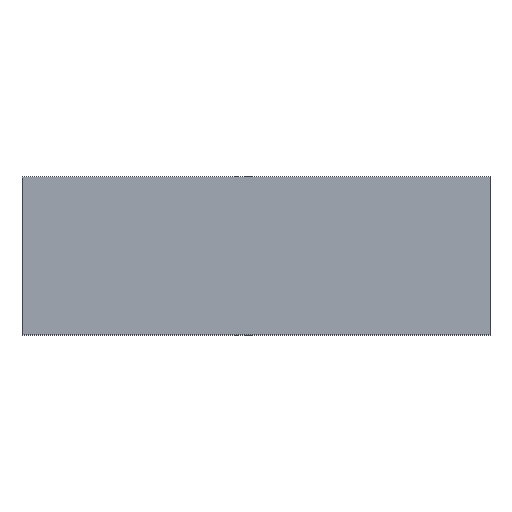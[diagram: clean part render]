
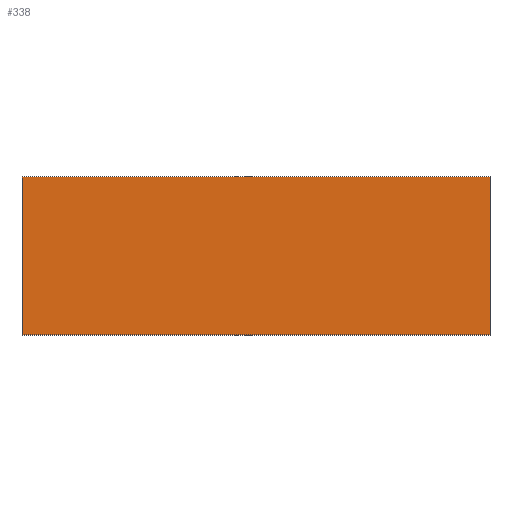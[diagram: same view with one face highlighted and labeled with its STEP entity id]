
A CAD part, top view. The second image highlights one B-rep face of the part: STEP entity #338.
In plain terms, the highlighted planar face has unit normal (0, 0, 1).
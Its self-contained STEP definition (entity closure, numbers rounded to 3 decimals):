
#24 = VERTEX_POINT('',#25);
#25 = CARTESIAN_POINT('',(-207.,-230.,166.));
#32 = PLANE('',#33);
#33 = AXIS2_PLACEMENT_3D('',#34,#35,#36);
#34 = CARTESIAN_POINT('',(-207.,-230.,154.));
#35 = DIRECTION('',(1.,0.,-0.));
#36 = DIRECTION('',(0.,0.,1.));
#44 = PLANE('',#45);
#45 = AXIS2_PLACEMENT_3D('',#46,#47,#48);
#46 = CARTESIAN_POINT('',(-207.,-230.,154.));
#47 = DIRECTION('',(-0.,1.,0.));
#48 = DIRECTION('',(0.,0.,1.));
#85 = VERTEX_POINT('',#86);
#86 = CARTESIAN_POINT('',(-207.,-176.,166.));
#100 = PLANE('',#101);
#101 = AXIS2_PLACEMENT_3D('',#102,#103,#104);
#102 = CARTESIAN_POINT('',(-207.,-176.,154.));
#103 = DIRECTION('',(-0.,1.,0.));
#104 = DIRECTION('',(0.,0.,1.));
#112 = EDGE_CURVE('',#24,#85,#113,.T.);
#113 = SURFACE_CURVE('',#114,(#118,#125),.PCURVE_S1.);
#114 = LINE('',#115,#116);
#115 = CARTESIAN_POINT('',(-207.,-230.,166.));
#116 = VECTOR('',#117,1.);
#117 = DIRECTION('',(-0.,1.,0.));
#118 = PCURVE('',#32,#119);
#119 = DEFINITIONAL_REPRESENTATION('',(#120),#124);
#120 = LINE('',#121,#122);
#121 = CARTESIAN_POINT('',(12.,0.));
#122 = VECTOR('',#123,1.);
#123 = DIRECTION('',(0.,-1.));
#124 = ( GEOMETRIC_REPRESENTATION_CONTEXT(2) 
PARAMETRIC_REPRESENTATION_CONTEXT() REPRESENTATION_CONTEXT('2D SPACE',''
  ) );
#125 = PCURVE('',#126,#131);
#126 = PLANE('',#127);
#127 = AXIS2_PLACEMENT_3D('',#128,#129,#130);
#128 = CARTESIAN_POINT('',(-207.,-230.,166.));
#129 = DIRECTION('',(0.,0.,1.));
#130 = DIRECTION('',(1.,0.,-0.));
#131 = DEFINITIONAL_REPRESENTATION('',(#132),#136);
#132 = LINE('',#133,#134);
#133 = CARTESIAN_POINT('',(0.,0.));
#134 = VECTOR('',#135,1.);
#135 = DIRECTION('',(0.,1.));
#136 = ( GEOMETRIC_REPRESENTATION_CONTEXT(2) 
PARAMETRIC_REPRESENTATION_CONTEXT() REPRESENTATION_CONTEXT('2D SPACE',''
  ) );
#144 = VERTEX_POINT('',#145);
#145 = CARTESIAN_POINT('',(-47.,-230.,166.));
#152 = PLANE('',#153);
#153 = AXIS2_PLACEMENT_3D('',#154,#155,#156);
#154 = CARTESIAN_POINT('',(-47.,-230.,154.));
#155 = DIRECTION('',(1.,0.,-0.));
#156 = DIRECTION('',(0.,0.,1.));
#195 = VERTEX_POINT('',#196);
#196 = CARTESIAN_POINT('',(-47.,-176.,166.));
#217 = EDGE_CURVE('',#144,#195,#218,.T.);
#218 = SURFACE_CURVE('',#219,(#223,#230),.PCURVE_S1.);
#219 = LINE('',#220,#221);
#220 = CARTESIAN_POINT('',(-47.,-230.,166.));
#221 = VECTOR('',#222,1.);
#222 = DIRECTION('',(-0.,1.,0.));
#223 = PCURVE('',#152,#224);
#224 = DEFINITIONAL_REPRESENTATION('',(#225),#229);
#225 = LINE('',#226,#227);
#226 = CARTESIAN_POINT('',(12.,0.));
#227 = VECTOR('',#228,1.);
#228 = DIRECTION('',(0.,-1.));
#229 = ( GEOMETRIC_REPRESENTATION_CONTEXT(2) 
PARAMETRIC_REPRESENTATION_CONTEXT() REPRESENTATION_CONTEXT('2D SPACE',''
  ) );
#230 = PCURVE('',#126,#231);
#231 = DEFINITIONAL_REPRESENTATION('',(#232),#236);
#232 = LINE('',#233,#234);
#233 = CARTESIAN_POINT('',(160.,0.));
#234 = VECTOR('',#235,1.);
#235 = DIRECTION('',(0.,1.));
#236 = ( GEOMETRIC_REPRESENTATION_CONTEXT(2) 
PARAMETRIC_REPRESENTATION_CONTEXT() REPRESENTATION_CONTEXT('2D SPACE',''
  ) );
#263 = EDGE_CURVE('',#24,#144,#264,.T.);
#264 = SURFACE_CURVE('',#265,(#269,#276),.PCURVE_S1.);
#265 = LINE('',#266,#267);
#266 = CARTESIAN_POINT('',(-207.,-230.,166.));
#267 = VECTOR('',#268,1.);
#268 = DIRECTION('',(1.,0.,-0.));
#269 = PCURVE('',#44,#270);
#270 = DEFINITIONAL_REPRESENTATION('',(#271),#275);
#271 = LINE('',#272,#273);
#272 = CARTESIAN_POINT('',(12.,0.));
#273 = VECTOR('',#274,1.);
#274 = DIRECTION('',(0.,1.));
#275 = ( GEOMETRIC_REPRESENTATION_CONTEXT(2) 
PARAMETRIC_REPRESENTATION_CONTEXT() REPRESENTATION_CONTEXT('2D SPACE',''
  ) );
#276 = PCURVE('',#126,#277);
#277 = DEFINITIONAL_REPRESENTATION('',(#278),#282);
#278 = LINE('',#279,#280);
#279 = CARTESIAN_POINT('',(0.,0.));
#280 = VECTOR('',#281,1.);
#281 = DIRECTION('',(1.,0.));
#282 = ( GEOMETRIC_REPRESENTATION_CONTEXT(2) 
PARAMETRIC_REPRESENTATION_CONTEXT() REPRESENTATION_CONTEXT('2D SPACE',''
  ) );
#310 = EDGE_CURVE('',#85,#195,#311,.T.);
#311 = SURFACE_CURVE('',#312,(#316,#323),.PCURVE_S1.);
#312 = LINE('',#313,#314);
#313 = CARTESIAN_POINT('',(-207.,-176.,166.));
#314 = VECTOR('',#315,1.);
#315 = DIRECTION('',(1.,0.,-0.));
#316 = PCURVE('',#100,#317);
#317 = DEFINITIONAL_REPRESENTATION('',(#318),#322);
#318 = LINE('',#319,#320);
#319 = CARTESIAN_POINT('',(12.,0.));
#320 = VECTOR('',#321,1.);
#321 = DIRECTION('',(0.,1.));
#322 = ( GEOMETRIC_REPRESENTATION_CONTEXT(2) 
PARAMETRIC_REPRESENTATION_CONTEXT() REPRESENTATION_CONTEXT('2D SPACE',''
  ) );
#323 = PCURVE('',#126,#324);
#324 = DEFINITIONAL_REPRESENTATION('',(#325),#329);
#325 = LINE('',#326,#327);
#326 = CARTESIAN_POINT('',(0.,54.));
#327 = VECTOR('',#328,1.);
#328 = DIRECTION('',(1.,0.));
#329 = ( GEOMETRIC_REPRESENTATION_CONTEXT(2) 
PARAMETRIC_REPRESENTATION_CONTEXT() REPRESENTATION_CONTEXT('2D SPACE',''
  ) );
#338 = ADVANCED_FACE('',(#339),#126,.T.);
#339 = FACE_BOUND('',#340,.T.);
#340 = EDGE_LOOP('',(#341,#342,#343,#344));
#341 = ORIENTED_EDGE('',*,*,#112,.F.);
#342 = ORIENTED_EDGE('',*,*,#263,.T.);
#343 = ORIENTED_EDGE('',*,*,#217,.T.);
#344 = ORIENTED_EDGE('',*,*,#310,.F.);
